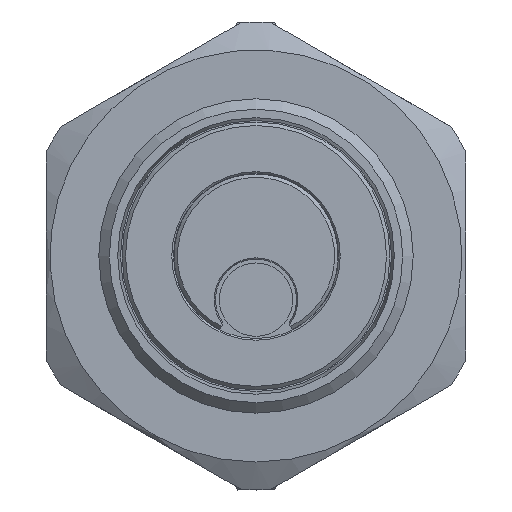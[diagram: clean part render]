
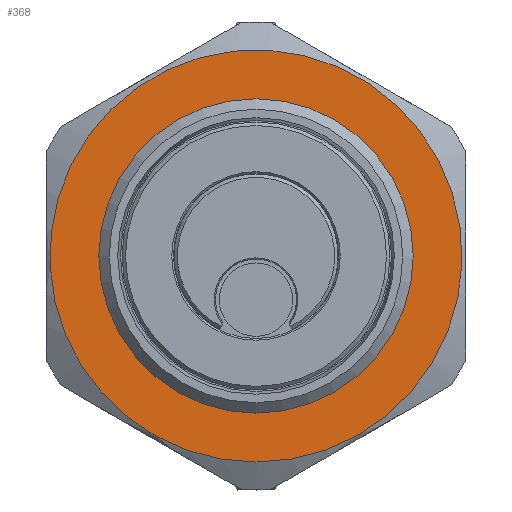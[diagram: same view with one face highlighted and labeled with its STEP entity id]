
A CAD part, left-side view. The second image highlights one B-rep face of the part: STEP entity #368.
In plain terms, the highlighted planar face has unit normal (-1, 0, 0) as drawn and (0, -1, 0) by its records, which use the part's own axes.
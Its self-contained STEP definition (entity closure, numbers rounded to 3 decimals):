
#368 = ADVANCED_FACE( '', ( #578, #579 ), #580, .F. );
#578 = FACE_BOUND( '', #683, .T. );
#579 = FACE_OUTER_BOUND( '', #684, .T. );
#580 = PLANE( '', #685 );
#683 = EDGE_LOOP( '', ( #907 ) );
#684 = EDGE_LOOP( '', ( #908 ) );
#685 = AXIS2_PLACEMENT_3D( '', #909, #910, #911 );
#907 = ORIENTED_EDGE( '', *, *, #1078, .T. );
#908 = ORIENTED_EDGE( '', *, *, #1074, .T. );
#909 = CARTESIAN_POINT( '', ( 0., -2., 0. ) );
#910 = DIRECTION( '', ( 0., 1., 0. ) );
#911 = DIRECTION( '', ( 0., 0., 1. ) );
#1074 = EDGE_CURVE( '', #1212, #1212, #1213, .T. );
#1078 = EDGE_CURVE( '', #1220, #1220, #1221, .T. );
#1212 = VERTEX_POINT( '', #1428 );
#1213 = CIRCLE( '', #1429, 11.8 );
#1220 = VERTEX_POINT( '', #1436 );
#1221 = CIRCLE( '', #1437, 8.959 );
#1428 = CARTESIAN_POINT( '', ( 0., -2., -11.8 ) );
#1429 = AXIS2_PLACEMENT_3D( '', #1489, #1490, #1491 );
#1436 = CARTESIAN_POINT( '', ( 0., -2., 8.959 ) );
#1437 = AXIS2_PLACEMENT_3D( '', #1501, #1502, #1503 );
#1489 = CARTESIAN_POINT( '', ( 0., -2., 0. ) );
#1490 = DIRECTION( '', ( 0., -1., 0. ) );
#1491 = DIRECTION( '', ( 0., 0., -1. ) );
#1501 = CARTESIAN_POINT( '', ( 0., -2., 0. ) );
#1502 = DIRECTION( '', ( 0., 1., 0. ) );
#1503 = DIRECTION( '', ( 0., 0., 1. ) );
